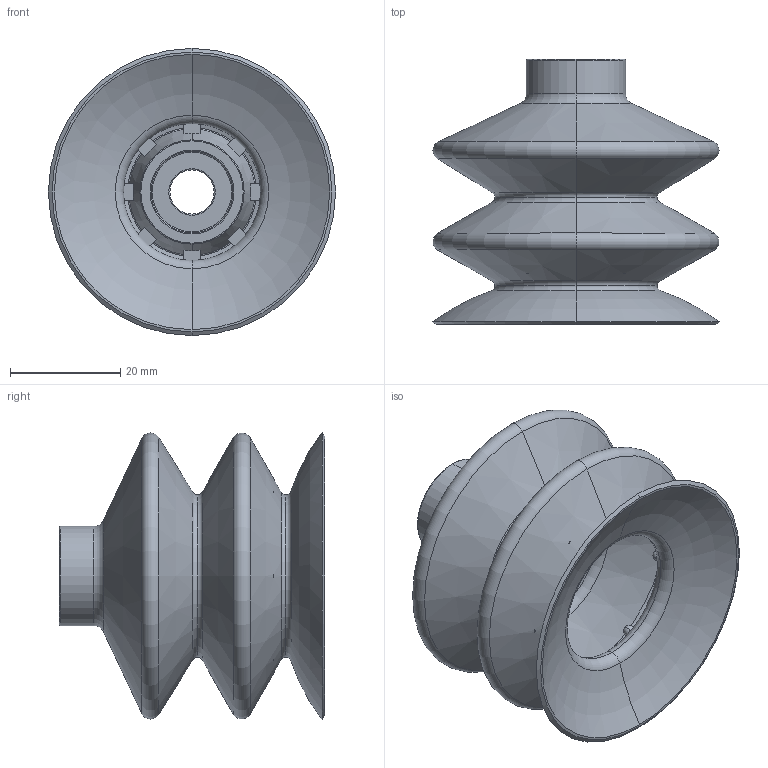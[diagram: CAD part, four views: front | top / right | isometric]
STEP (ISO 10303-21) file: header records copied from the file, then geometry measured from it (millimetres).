
FILE_DESCRIPTION (( 'STEP AP203' ), '1' );
FILE_NAME ('2_50--A.STEP', '2017-04-14T13:41:09', ( '' ), ( '' ), 'SwSTEP 2.0', 'SolidWorks 2016', '' );
FILE_SCHEMA (( 'CONFIG_CONTROL_DESIGN' ));
Length unit declared in the file: millimetre
Products named in the file (1): 2_50--A
Bounding box: 52 x 48 x 52 mm (x, y, z)
Volume: 20273.6 mm3; surface area: 19281.4 mm2
Topology: 1 solids, 1 shells, 146 faces, 350 edges, 208 vertices
Faces by surface type: torus 50, plane 34, cylinder 30, cone 20, sphere 12
Entity records: 4579 total; most frequent: CARTESIAN_POINT 1191, DIRECTION 736, ORIENTED_EDGE 676, AXIS2_PLACEMENT_3D 341, EDGE_CURVE 338, VERTEX_POINT 208, CIRCLE 194, EDGE_LOOP 162
